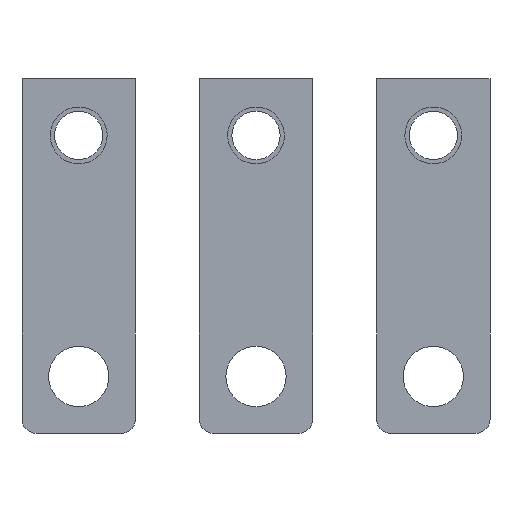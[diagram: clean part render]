
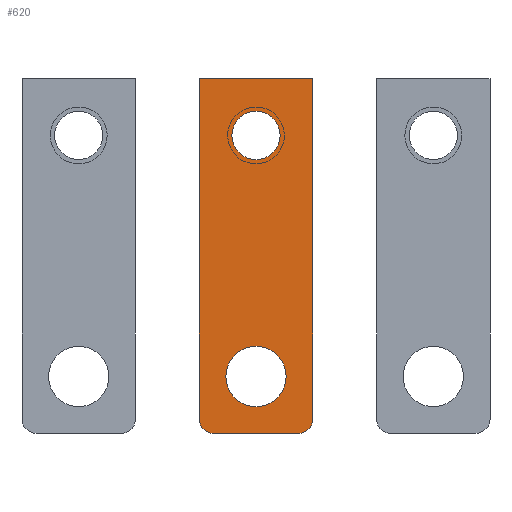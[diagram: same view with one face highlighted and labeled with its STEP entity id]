
A CAD part, front view. The second image highlights one B-rep face of the part: STEP entity #620.
In plain terms, the highlighted planar face has unit normal (0, -1, 0).
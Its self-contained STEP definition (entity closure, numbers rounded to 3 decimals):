
#13 = VERTEX_POINT ( 'NONE', #244 ) ;
#21 = LINE ( 'NONE', #469, #591 ) ;
#23 = VECTOR ( 'NONE', #695, 1000. ) ;
#27 = DIRECTION ( 'NONE',  ( 1., 0., 0. ) ) ;
#34 = CARTESIAN_POINT ( 'NONE',  ( -4.25, 4., -42. ) ) ;
#38 = AXIS2_PLACEMENT_3D ( 'NONE', #663, #610, #348 ) ;
#42 = ORIENTED_EDGE ( 'NONE', *, *, #120, .T. ) ;
#53 = CARTESIAN_POINT ( 'NONE',  ( -6., 4., -48. ) ) ;
#57 = DIRECTION ( 'NONE',  ( -1., 0., 0. ) ) ;
#60 = AXIS2_PLACEMENT_3D ( 'NONE', #557, #553, #175 ) ;
#78 = EDGE_CURVE ( 'NONE', #476, #236, #496, .T. ) ;
#82 = EDGE_CURVE ( 'NONE', #420, #367, #589, .T. ) ;
#83 = VECTOR ( 'NONE', #57, 1000. ) ;
#84 = EDGE_LOOP ( 'NONE', ( #566, #42 ) ) ;
#88 = ORIENTED_EDGE ( 'NONE', *, *, #167, .T. ) ;
#90 = VERTEX_POINT ( 'NONE', #259 ) ;
#95 = CIRCLE ( 'NONE', #38, 3.4 ) ;
#106 = CARTESIAN_POINT ( 'NONE',  ( 6., 4., -50. ) ) ;
#107 = CIRCLE ( 'NONE', #506, 2. ) ;
#110 = PLANE ( 'NONE',  #415 ) ;
#112 = CARTESIAN_POINT ( 'NONE',  ( -3.4, 4., -8. ) ) ;
#117 = DIRECTION ( 'NONE',  ( 0., 1., 0. ) ) ;
#120 = EDGE_CURVE ( 'NONE', #236, #476, #95, .T. ) ;
#135 = DIRECTION ( 'NONE',  ( 0., 0., 1. ) ) ;
#165 = CIRCLE ( 'NONE', #240, 4.25 ) ;
#167 = EDGE_CURVE ( 'NONE', #254, #286, #165, .T. ) ;
#169 = DIRECTION ( 'NONE',  ( -1., 0., 0. ) ) ;
#175 = DIRECTION ( 'NONE',  ( 1., 0., 0. ) ) ;
#182 = CARTESIAN_POINT ( 'NONE',  ( -8., 4., -48. ) ) ;
#184 = AXIS2_PLACEMENT_3D ( 'NONE', #373, #704, #169 ) ;
#192 = EDGE_CURVE ( 'NONE', #286, #254, #460, .T. ) ;
#221 = ORIENTED_EDGE ( 'NONE', *, *, #647, .F. ) ;
#225 = CARTESIAN_POINT ( 'NONE',  ( 4.25, 4., -42. ) ) ;
#227 = VECTOR ( 'NONE', #135, 1000. ) ;
#231 = CARTESIAN_POINT ( 'NONE',  ( -8., 4., -48. ) ) ;
#236 = VERTEX_POINT ( 'NONE', #539 ) ;
#240 = AXIS2_PLACEMENT_3D ( 'NONE', #602, #117, #334 ) ;
#244 = CARTESIAN_POINT ( 'NONE',  ( -8., 4., 0. ) ) ;
#251 = CARTESIAN_POINT ( 'NONE',  ( -6., 4., -50. ) ) ;
#254 = VERTEX_POINT ( 'NONE', #34 ) ;
#259 = CARTESIAN_POINT ( 'NONE',  ( 6., 4., -50. ) ) ;
#274 = DIRECTION ( 'NONE',  ( 0., 1., 0. ) ) ;
#286 = VERTEX_POINT ( 'NONE', #225 ) ;
#289 = AXIS2_PLACEMENT_3D ( 'NONE', #53, #643, #646 ) ;
#298 = ORIENTED_EDGE ( 'NONE', *, *, #502, .F. ) ;
#300 = EDGE_CURVE ( 'NONE', #367, #13, #447, .T. ) ;
#303 = CARTESIAN_POINT ( 'NONE',  ( 8., 4., 0. ) ) ;
#334 = DIRECTION ( 'NONE',  ( -1., 0., 0. ) ) ;
#339 = ORIENTED_EDGE ( 'NONE', *, *, #638, .F. ) ;
#348 = DIRECTION ( 'NONE',  ( 1., 0., 0. ) ) ;
#352 = ORIENTED_EDGE ( 'NONE', *, *, #192, .T. ) ;
#361 = FACE_BOUND ( 'NONE', #510, .T. ) ;
#367 = VERTEX_POINT ( 'NONE', #231 ) ;
#373 = CARTESIAN_POINT ( 'NONE',  ( 0., 4., -8. ) ) ;
#380 = LINE ( 'NONE', #106, #83 ) ;
#408 = VERTEX_POINT ( 'NONE', #455 ) ;
#414 = DIRECTION ( 'NONE',  ( 0., 1., 0. ) ) ;
#415 = AXIS2_PLACEMENT_3D ( 'NONE', #542, #274, #418 ) ;
#418 = DIRECTION ( 'NONE',  ( 1., 0., 0. ) ) ;
#420 = VERTEX_POINT ( 'NONE', #251 ) ;
#428 = CARTESIAN_POINT ( 'NONE',  ( 8., 4., -48. ) ) ;
#429 = EDGE_CURVE ( 'NONE', #408, #513, #622, .T. ) ;
#437 = FACE_OUTER_BOUND ( 'NONE', #692, .T. ) ;
#447 = LINE ( 'NONE', #182, #227 ) ;
#455 = CARTESIAN_POINT ( 'NONE',  ( 8., 4., 0. ) ) ;
#460 = CIRCLE ( 'NONE', #60, 4.25 ) ;
#469 = CARTESIAN_POINT ( 'NONE',  ( -8., 4., 0. ) ) ;
#476 = VERTEX_POINT ( 'NONE', #112 ) ;
#496 = CIRCLE ( 'NONE', #184, 3.4 ) ;
#502 = EDGE_CURVE ( 'NONE', #90, #420, #380, .T. ) ;
#506 = AXIS2_PLACEMENT_3D ( 'NONE', #674, #414, #27 ) ;
#510 = EDGE_LOOP ( 'NONE', ( #88, #352 ) ) ;
#513 = VERTEX_POINT ( 'NONE', #428 ) ;
#522 = ORIENTED_EDGE ( 'NONE', *, *, #429, .F. ) ;
#539 = CARTESIAN_POINT ( 'NONE',  ( 3.4, 4., -8. ) ) ;
#542 = CARTESIAN_POINT ( 'NONE',  ( 0., 4., 0. ) ) ;
#553 = DIRECTION ( 'NONE',  ( 0., 1., 0. ) ) ;
#557 = CARTESIAN_POINT ( 'NONE',  ( 0., 4., -42. ) ) ;
#566 = ORIENTED_EDGE ( 'NONE', *, *, #78, .T. ) ;
#586 = FACE_BOUND ( 'NONE', #84, .T. ) ;
#589 = CIRCLE ( 'NONE', #289, 2. ) ;
#591 = VECTOR ( 'NONE', #666, 1000. ) ;
#602 = CARTESIAN_POINT ( 'NONE',  ( 0., 4., -42. ) ) ;
#610 = DIRECTION ( 'NONE',  ( 0., 1., 0. ) ) ;
#620 = ADVANCED_FACE ( 'NONE', ( #586, #361, #437 ), #110, .F. ) ;
#622 = LINE ( 'NONE', #303, #23 ) ;
#630 = ORIENTED_EDGE ( 'NONE', *, *, #300, .F. ) ;
#638 = EDGE_CURVE ( 'NONE', #513, #90, #107, .T. ) ;
#643 = DIRECTION ( 'NONE',  ( 0., 1., 0. ) ) ;
#646 = DIRECTION ( 'NONE',  ( 0., 0., -1. ) ) ;
#647 = EDGE_CURVE ( 'NONE', #13, #408, #21, .T. ) ;
#650 = ORIENTED_EDGE ( 'NONE', *, *, #82, .F. ) ;
#663 = CARTESIAN_POINT ( 'NONE',  ( 0., 4., -8. ) ) ;
#666 = DIRECTION ( 'NONE',  ( 1., 0., 0. ) ) ;
#674 = CARTESIAN_POINT ( 'NONE',  ( 6., 4., -48. ) ) ;
#692 = EDGE_LOOP ( 'NONE', ( #650, #298, #339, #522, #221, #630 ) ) ;
#695 = DIRECTION ( 'NONE',  ( 0., 0., -1. ) ) ;
#704 = DIRECTION ( 'NONE',  ( 0., 1., 0. ) ) ;
